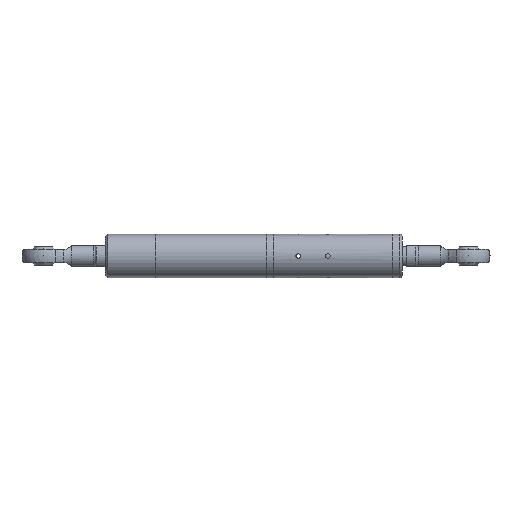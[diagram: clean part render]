
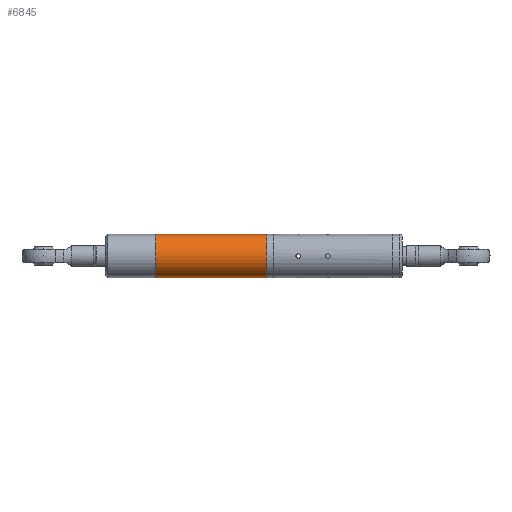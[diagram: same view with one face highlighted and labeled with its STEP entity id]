
A CAD part, front view. The second image highlights one B-rep face of the part: STEP entity #6845.
In plain terms, the highlighted cylindrical face has radius 9.525 mm (diameter 19.05 mm), a partial arc.
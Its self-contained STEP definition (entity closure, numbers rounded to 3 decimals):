
#60 = DIRECTION ( 'NONE',  ( 0., 0., 1. ) ) ;
#348 = CIRCLE ( 'NONE', #4217, 9.525 ) ;
#931 = VERTEX_POINT ( 'NONE', #1667 ) ;
#1383 = CARTESIAN_POINT ( 'NONE',  ( -61., 0., -9.525 ) ) ;
#1643 = DIRECTION ( 'NONE',  ( -1., 0., 0. ) ) ;
#1667 = CARTESIAN_POINT ( 'NONE',  ( -12.5, 0., 9.525 ) ) ;
#2123 = CARTESIAN_POINT ( 'NONE',  ( -61., 0., 9.525 ) ) ;
#2283 = DIRECTION ( 'NONE',  ( -1., 0., 0. ) ) ;
#2396 = EDGE_CURVE ( 'NONE', #4261, #931, #3609, .T. ) ;
#2866 = DIRECTION ( 'NONE',  ( -1., 0., 0. ) ) ;
#3119 = VERTEX_POINT ( 'NONE', #1383 ) ;
#3495 = DIRECTION ( 'NONE',  ( 0., 0., 1. ) ) ;
#3609 = CIRCLE ( 'NONE', #5817, 9.525 ) ;
#3678 = EDGE_CURVE ( 'NONE', #931, #5938, #5184, .T. ) ;
#3835 = CARTESIAN_POINT ( 'NONE',  ( -61., 0., 0. ) ) ;
#4217 = AXIS2_PLACEMENT_3D ( 'NONE', #3835, #7508, #60 ) ;
#4261 = VERTEX_POINT ( 'NONE', #5053 ) ;
#4374 = CARTESIAN_POINT ( 'NONE',  ( -12.5, 0., 0. ) ) ;
#4498 = ORIENTED_EDGE ( 'NONE', *, *, #2396, .T. ) ;
#4655 = EDGE_LOOP ( 'NONE', ( #5866, #4498, #6482, #5509 ) ) ;
#4784 = CARTESIAN_POINT ( 'NONE',  ( -61., 0., 0. ) ) ;
#5053 = CARTESIAN_POINT ( 'NONE',  ( -12.5, 0., -9.525 ) ) ;
#5184 = LINE ( 'NONE', #2123, #5858 ) ;
#5440 = FACE_OUTER_BOUND ( 'NONE', #4655, .T. ) ;
#5509 = ORIENTED_EDGE ( 'NONE', *, *, #7860, .F. ) ;
#5817 = AXIS2_PLACEMENT_3D ( 'NONE', #4374, #6888, #6294 ) ;
#5858 = VECTOR ( 'NONE', #2866, 1000. ) ;
#5866 = ORIENTED_EDGE ( 'NONE', *, *, #7370, .F. ) ;
#5935 = CYLINDRICAL_SURFACE ( 'NONE', #6286, 9.525 ) ;
#5938 = VERTEX_POINT ( 'NONE', #6175 ) ;
#6175 = CARTESIAN_POINT ( 'NONE',  ( -61., 0., 9.525 ) ) ;
#6286 = AXIS2_PLACEMENT_3D ( 'NONE', #4784, #1643, #3495 ) ;
#6294 = DIRECTION ( 'NONE',  ( 0., 0., 1. ) ) ;
#6477 = LINE ( 'NONE', #6514, #6793 ) ;
#6482 = ORIENTED_EDGE ( 'NONE', *, *, #3678, .T. ) ;
#6514 = CARTESIAN_POINT ( 'NONE',  ( -61., 0., -9.525 ) ) ;
#6793 = VECTOR ( 'NONE', #2283, 1000. ) ;
#6845 = ADVANCED_FACE ( 'NONE', ( #5440 ), #5935, .T. ) ;
#6888 = DIRECTION ( 'NONE',  ( -1., 0., 0. ) ) ;
#7370 = EDGE_CURVE ( 'NONE', #4261, #3119, #6477, .T. ) ;
#7508 = DIRECTION ( 'NONE',  ( -1., 0., 0. ) ) ;
#7860 = EDGE_CURVE ( 'NONE', #3119, #5938, #348, .T. ) ;
